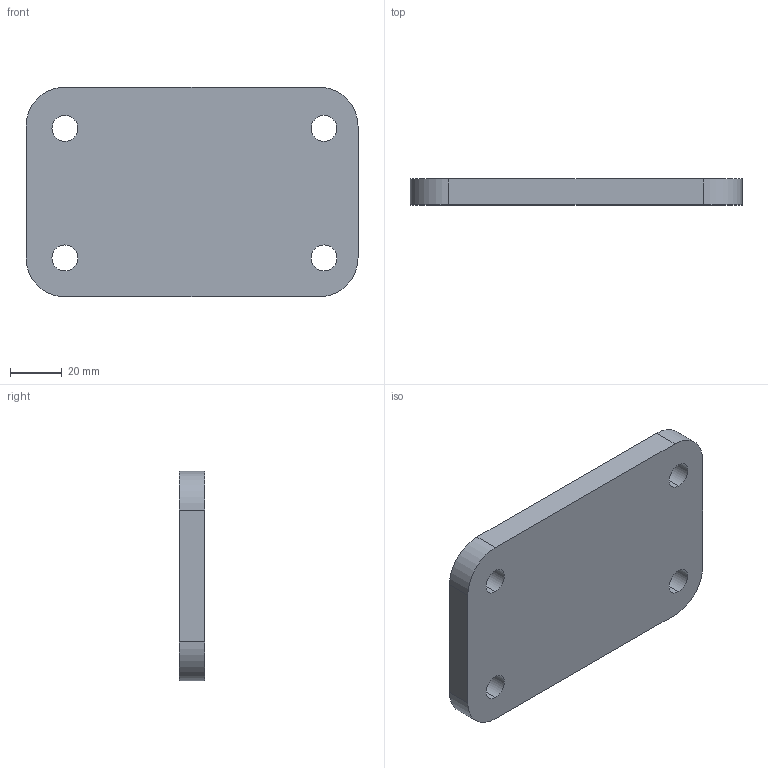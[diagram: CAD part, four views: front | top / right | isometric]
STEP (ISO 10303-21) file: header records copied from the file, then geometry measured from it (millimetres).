
FILE_DESCRIPTION (( 'STEP AP214' ), '1' );
FILE_NAME ('Figure 6-77.STEP', '2016-01-06T06:13:37', ( '' ), ( '' ), 'SwSTEP 2.0', 'SolidWorks 2015', '' );
FILE_SCHEMA (( 'AUTOMOTIVE_DESIGN' ));
Length unit declared in the file: millimetre
Products named in the file (1): Figure 6-77
Bounding box: 128.1 x 10 x 80.89 mm (x, y, z)
Volume: 98546.1 mm3; surface area: 24888.2 mm2
Topology: 1 solids, 1 shells, 18 faces, 48 edges, 32 vertices
Faces by surface type: cylinder 12, plane 6
Entity records: 626 total; most frequent: DIRECTION 110, CARTESIAN_POINT 99, ORIENTED_EDGE 96, EDGE_CURVE 48, AXIS2_PLACEMENT_3D 43, VERTEX_POINT 32, EDGE_LOOP 26, VECTOR 24
